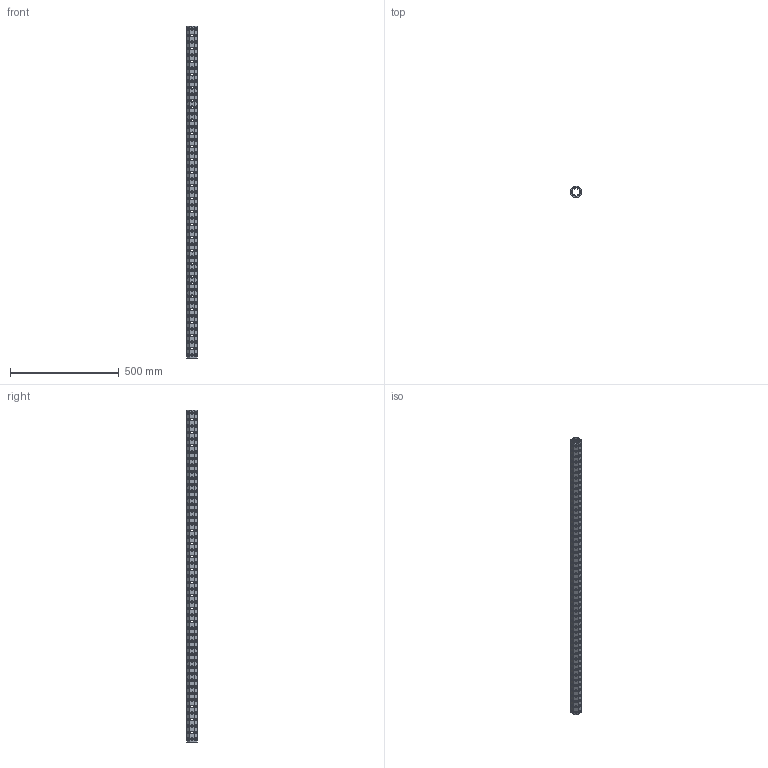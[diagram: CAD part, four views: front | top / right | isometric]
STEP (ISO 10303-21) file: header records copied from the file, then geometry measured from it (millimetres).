
FILE_DESCRIPTION(('CATIA V5 STEP Exchange'),'2;1');
FILE_NAME('U:\Room\唐宝山\EGT002\46-01-010280-01-EGT002-1528.stp','2021-08-24T01:28:43+00:00',('none'),('none'),'CATIA Version 5 Release 21 GA (IN-10)','CATIA V5 STEP AP203','none');
FILE_SCHEMA(('CONFIG_CONTROL_DESIGN'));
Products named in the file (1): 46-01-010280-01-EGT002-1528
Bounding box: 50 x 50 x 1528 mm (x, y, z)
Volume: 1088627.2 mm3; surface area: 525266.6 mm2
Topology: 1 solids, 1 shells, 2124 faces, 5856 edges, 3632 vertices
Faces by surface type: cone 1224, cylinder 874, plane 26
Entity records: 91594 total; most frequent: CARTESIAN_POINT 40673, ORIENTED_EDGE 11712, DIRECTION 8006, EDGE_CURVE 5856, VERTEX_POINT 3632, AXIS2_PLACEMENT_3D 3611, EDGE_LOOP 2840, VECTOR 2272
